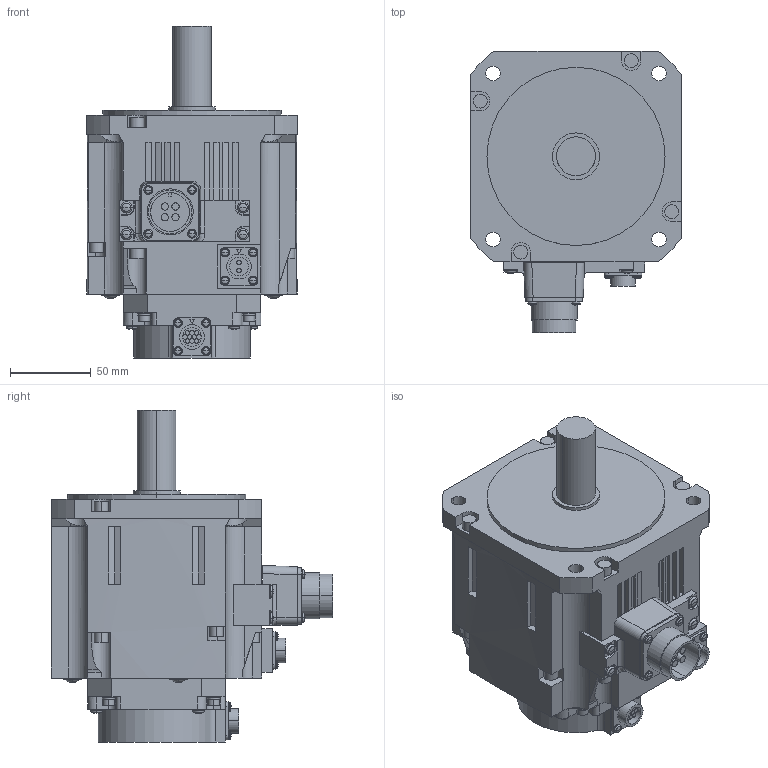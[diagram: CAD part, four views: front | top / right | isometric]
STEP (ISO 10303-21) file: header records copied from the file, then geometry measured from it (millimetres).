
FILE_DESCRIPTION((''),'2;1');
FILE_NAME('HK-ST52WB_','2019-01-17T',('XE90682'),(''),'CREO PARAMETRIC BY PTC INC, 2016380','CREO PARAMETRIC BY PTC INC, 2016380','');
FILE_SCHEMA(('CONFIG_CONTROL_DESIGN'));
Length unit declared in the file: millimetre
Products named in the file (1): HK-ST52WB_
Bounding box: 130 x 173.8 x 205 mm (x, y, z)
Volume: 1957541.8 mm3; surface area: 124586.8 mm2
Topology: 1 solids, 1 shells, 624 faces, 1534 edges, 968 vertices
Faces by surface type: plane 305, cylinder 223, sphere 46, torus 40, cone 8, bspline 2
Entity records: 19076 total; most frequent: CARTESIAN_POINT 4006, DIRECTION 3306, ORIENTED_EDGE 2988, EDGE_CURVE 1494, AXIS2_PLACEMENT_3D 1234, VERTEX_POINT 968, VECTOR 838, LINE 838
